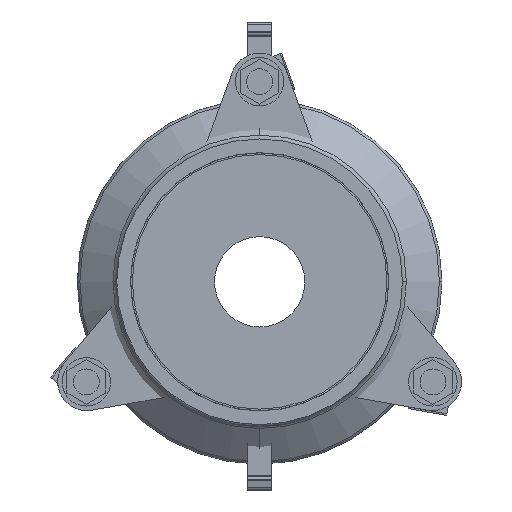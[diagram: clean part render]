
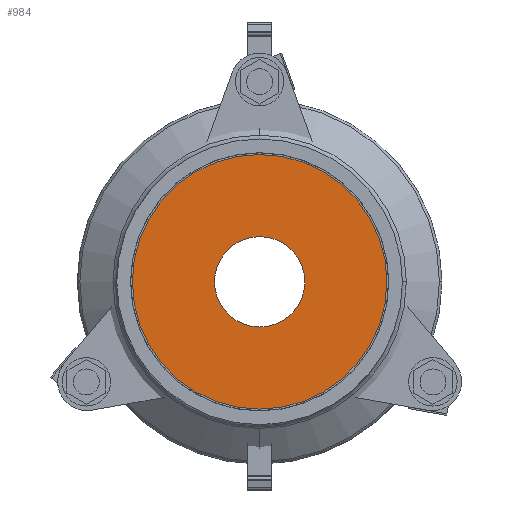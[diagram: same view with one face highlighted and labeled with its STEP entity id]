
A CAD part, left-side view. The second image highlights one B-rep face of the part: STEP entity #984.
In plain terms, the highlighted planar face has unit normal (-1, 0, 0).
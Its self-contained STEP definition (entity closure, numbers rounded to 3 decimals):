
#984=ADVANCED_FACE('',(#1890,#1891),#1892,.F.);
#1890=FACE_BOUND('',#2960,.T.);
#1891=FACE_OUTER_BOUND('',#2961,.T.);
#1892=PLANE('',#2962);
#2960=EDGE_LOOP('',(#4702,#4703));
#2961=EDGE_LOOP('',(#4704,#4705));
#2962=AXIS2_PLACEMENT_3D('',#4706,#4707,#4708);
#4702=ORIENTED_EDGE('',*,*,#5888,.T.);
#4703=ORIENTED_EDGE('',*,*,#6099,.T.);
#4704=ORIENTED_EDGE('',*,*,#6423,.T.);
#4705=ORIENTED_EDGE('',*,*,#6130,.T.);
#4706=CARTESIAN_POINT('',(104.0,0.0,0.));
#4707=DIRECTION('',(1.0,0.0,0.));
#4708=DIRECTION('',(0.,0.0,-1.0));
#5888=EDGE_CURVE('',#6929,#6934,#6936,.T.);
#6099=EDGE_CURVE('',#6934,#6929,#7279,.T.);
#6130=EDGE_CURVE('',#7327,#7325,#7328,.T.);
#6423=EDGE_CURVE('',#7325,#7327,#7741,.T.);
#6929=VERTEX_POINT('',#8414);
#6934=VERTEX_POINT('',#8420);
#6936=CIRCLE('',#8423,28.0);
#7279=CIRCLE('',#8866,28.0);
#7325=VERTEX_POINT('',#8927);
#7327=VERTEX_POINT('',#8930);
#7328=CIRCLE('',#8931,82.0);
#7741=CIRCLE('',#9555,82.0);
#8414=CARTESIAN_POINT('',(104.0,0.0,-28.0));
#8420=CARTESIAN_POINT('',(104.0,0.,28.0));
#8423=AXIS2_PLACEMENT_3D('',#10099,#10100,#10101);
#8866=AXIS2_PLACEMENT_3D('',#10382,#10383,#10384);
#8927=CARTESIAN_POINT('',(104.0,0.0,-82.0));
#8930=CARTESIAN_POINT('',(104.0,0.,82.0));
#8931=AXIS2_PLACEMENT_3D('',#10422,#10423,#10424);
#9555=AXIS2_PLACEMENT_3D('',#10745,#10746,#10747);
#10099=CARTESIAN_POINT('',(104.0,0.0,0.));
#10100=DIRECTION('',(1.0,0.0,0.));
#10101=DIRECTION('',(0.,0.0,-1.0));
#10382=CARTESIAN_POINT('',(104.0,0.0,0.));
#10383=DIRECTION('',(1.0,0.0,0.));
#10384=DIRECTION('',(0.,0.0,-1.0));
#10422=CARTESIAN_POINT('',(104.0,0.0,0.));
#10423=DIRECTION('',(-1.0,-0.0,0.));
#10424=DIRECTION('',(0.,0.0,-1.0));
#10745=CARTESIAN_POINT('',(104.0,0.0,0.));
#10746=DIRECTION('',(-1.0,-0.0,0.));
#10747=DIRECTION('',(0.,0.0,-1.0));
